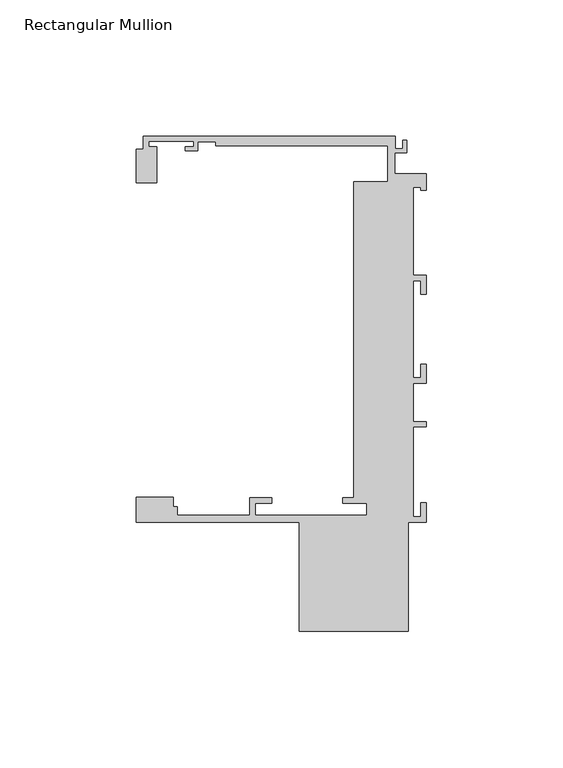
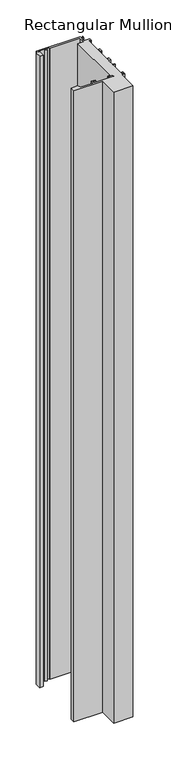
"""IFC4 building model written with IfcOpenShell, lengths in millimetres: member geometry, Rectangular Mullion : Danpal_K12_Middle-Mullion_B2."""

import ifcopenshell
import ifcopenshell.guid

model = None  # the IFC model being written
_history = None  # IfcOwnerHistory: only IFC2X3 demands one
_inside = {}  # id of a spatial element -> (the spatial element, [elements in it])
_under = {}  # id of a project, library or spatial element -> (it, [spatial elements below it])
_declared = {}  # id of a project -> (the project, [libraries it declares])
_typed = {}  # id of a type object -> (the type object, [elements of that type])
_made_of = {}  # id of a material, layer set ... -> (it, [elements and type objects made of it])


def new_model(schema):
    """Start an empty IFC model of exactly this schema.

    Asked for "IFC4X3", IfcOpenShell would pick the latest addendum, in which some entities
    have other attributes; the version numbers below select the first issue.
    IFC2X3 requires an IfcOwnerHistory on every rooted entity: one is made here for all.
    """
    global model, _history
    if schema == "IFC4X3":
        model = ifcopenshell.file(schema_version=(4, 3, 0, 0))
    else:
        model = ifcopenshell.file(schema=schema)
    _inside.clear()
    _under.clear()
    _declared.clear()
    _typed.clear()
    _made_of.clear()
    _history = None
    if model.schema == "IFC2X3":
        org = make("IfcOrganization", Name="unknown")
        user = make(
            "IfcPersonAndOrganization",
            ThePerson=make("IfcPerson", FamilyName="unknown"),
            TheOrganization=org,
        )
        app = make(
            "IfcApplication",
            ApplicationDeveloper=org,
            Version="unknown",
            ApplicationFullName="unknown",
            ApplicationIdentifier="unknown",
        )
        _history = make(
            "IfcOwnerHistory",
            OwningUser=user,
            OwningApplication=app,
            ChangeAction="ADDED",
            CreationDate=0,
        )
    return model


def make(cls, **values):
    """One entity of the class cls with the attributes given. An attribute that is None is left unset."""
    return model.create_entity(
        cls, **{name: value for name, value in values.items() if value is not None}
    )


def rooted(cls, **values):
    """An entity with a GlobalId (a new one), such as an element, a storey or a relation."""
    return make(cls, GlobalId=ifcopenshell.guid.new(), OwnerHistory=_history, **values)


def si_unit(unit_type, name, prefix=None):
    """IfcSIUnit, for example si_unit("LENGTHUNIT", "METRE", prefix="MILLI")."""
    return make("IfcSIUnit", UnitType=unit_type, Prefix=prefix, Name=name)


def assignment(units):
    """IfcUnitAssignment: the units of a project."""
    return None if units is None else make("IfcUnitAssignment", Units=units)


def point(xyz):
    """IfcCartesianPoint."""
    return None if xyz is None else make("IfcCartesianPoint", Coordinates=xyz)


def direction(xyz):
    """IfcDirection."""
    return None if xyz is None else make("IfcDirection", DirectionRatios=xyz)


def frame(location, z_axis=None, x_axis=None):
    """IfcAxis2Placement3D, a coordinate frame: its origin and axes. An axis left out is left unset."""
    return make(
        "IfcAxis2Placement3D",
        Location=point(location),
        Axis=direction(z_axis),
        RefDirection=direction(x_axis),
    )


def origin():
    """The frame at (0, 0, 0) with its axes left unset."""
    return frame((0.0, 0.0, 0.0))


def place(relative_to, where):
    """IfcLocalPlacement: puts the frame where relative to a parent placement (None: the world)."""
    return make(
        "IfcLocalPlacement", PlacementRelTo=relative_to, RelativePlacement=where
    )


def context(
    kind, dimensions, precision=None, world=None, true_north=None, identifier=None
):
    """IfcGeometricRepresentationContext, for example the 3D "Model" context."""
    return make(
        "IfcGeometricRepresentationContext",
        ContextIdentifier=identifier,
        ContextType=kind,
        CoordinateSpaceDimension=dimensions,
        Precision=precision,
        WorldCoordinateSystem=world,
        TrueNorth=true_north,
    )


def project(units=None, contexts=None):
    """IfcProject with its units and contexts."""
    return rooted(
        "IfcProject",
        Name="project",
        RepresentationContexts=contexts,
        UnitsInContext=assignment(units),
    )


def spatial(cls, under=None, at=None, **own):
    """A site, building, storey or space (cls), placed at a placement, below another one or the project."""
    s = rooted(cls, ObjectPlacement=at, **own)
    if under is not None:
        _under.setdefault(under.id(), (under, []))[1].append(s)
    return s


def polyline(points):
    """IfcPolyline through the points."""
    return make("IfcPolyline", Points=[point(p) for p in points])


def outline(outer, holes=None, kind="AREA"):
    """IfcArbitraryClosedProfileDef: a profile drawn as a closed curve; with holes, ...WithVoids."""
    if holes is None:
        return make("IfcArbitraryClosedProfileDef", ProfileType=kind, OuterCurve=outer)
    return make(
        "IfcArbitraryProfileDefWithVoids",
        ProfileType=kind,
        OuterCurve=outer,
        InnerCurves=holes,
    )


def extrude(swept, where, along, depth):
    """IfcExtrudedAreaSolid: the profile swept, set in the frame where, extruded along a direction by depth."""
    return make(
        "IfcExtrudedAreaSolid",
        SweptArea=swept,
        Position=where,
        ExtrudedDirection=direction(along),
        Depth=depth,
    )


def shape(context_of_items, identifier, shape_type, items):
    """IfcShapeRepresentation: the items that make up one representation, for example the "Body"."""
    return make(
        "IfcShapeRepresentation",
        ContextOfItems=context_of_items,
        RepresentationIdentifier=identifier,
        RepresentationType=shape_type,
        Items=items,
    )


def source(mapping_origin, context_of_items, identifier, shape_type, items):
    """IfcRepresentationMap: a shape defined once, which mapped items show again and again."""
    return make(
        "IfcRepresentationMap",
        MappingOrigin=mapping_origin,
        MappedRepresentation=shape(context_of_items, identifier, shape_type, items),
    )


def transform(
    local_origin,
    x_axis=None,
    y_axis=None,
    z_axis=None,
    scale=None,
    scale2=None,
    scale3=None,
    uniform=True,
):
    """IfcCartesianTransformationOperator3D, or its non-uniform kind. x_axis, y_axis, z_axis: its Axis1, 2, 3."""
    if uniform:
        return make(
            "IfcCartesianTransformationOperator3D",
            Axis1=direction(x_axis),
            Axis2=direction(y_axis),
            LocalOrigin=point(local_origin),
            Scale=scale,
            Axis3=direction(z_axis),
        )
    return make(
        "IfcCartesianTransformationOperator3DnonUniform",
        Axis1=direction(x_axis),
        Axis2=direction(y_axis),
        LocalOrigin=point(local_origin),
        Scale=scale,
        Axis3=direction(z_axis),
        Scale2=scale2,
        Scale3=scale3,
    )


def mapped(mapping_source, mapping_target):
    """IfcMappedItem: shows the shape of a source again, moved by a transform."""
    return make(
        "IfcMappedItem", MappingSource=mapping_source, MappingTarget=mapping_target
    )


def made_of(thing, what):
    """Note that an element or type object is made of a material, layer set ...; save() writes the relation."""
    if what is not None:
        _made_of.setdefault(what.id(), (what, []))[1].append(thing)
    return thing


def element(
    cls,
    number,
    at=None,
    inside=None,
    cuts=None,
    type_object=None,
    material=None,
    context=None,
    identifier="Body",
    shape_type=None,
    held_by="IfcProductDefinitionShape",
    body=None,
    shapes=None,
    **own,
):
    """One element of the class cls, such as IfcWall. Its Tag is "e" and its number.

    at: its placement. inside: the storey or other place that contains it. cuts: it is an
    opening in that element (IfcRelVoidsElement). A single representation is given by context,
    identifier, shape_type and body (its items); several are given by shapes. held_by: the class
    of the entity that holds the representations. save() writes the other relations.
    """
    e = rooted(cls, Tag="e%d" % number, ObjectPlacement=at, **own)
    if body is not None:
        shapes = [shape(context, identifier, shape_type, body)]
    if shapes is not None:
        e.Representation = make(held_by, Representations=shapes)
    if inside is not None:
        _inside.setdefault(inside.id(), (inside, []))[1].append(e)
    if cuts is not None:
        rooted(
            "IfcRelVoidsElement", RelatingBuildingElement=cuts, RelatedOpeningElement=e
        )
    if type_object is not None:
        _typed.setdefault(type_object.id(), (type_object, []))[1].append(e)
    return made_of(e, material)


def aggregate(whole, parts):
    """IfcRelAggregates: a whole, such as a stair, and the parts it consists of."""
    return rooted("IfcRelAggregates", RelatingObject=whole, RelatedObjects=parts)


def save(model, path):
    """Write the relations noted so far, then the file.

    IfcRelAggregates (storeys below a building ...), IfcRelContainedInSpatialStructure (elements
    in a storey), IfcRelDefinesByType, IfcRelAssociatesMaterial and IfcRelDeclares: one each for
    every whole, place, type object, material and project.
    """
    for whole, parts in _under.values():
        aggregate(whole, parts)
    for where, things in _inside.values():
        rooted(
            "IfcRelContainedInSpatialStructure",
            RelatedElements=things,
            RelatingStructure=where,
        )
    for kind, things in _typed.values():
        rooted("IfcRelDefinesByType", RelatedObjects=things, RelatingType=kind)
    for what, things in _made_of.values():
        rooted("IfcRelAssociatesMaterial", RelatedObjects=things, RelatingMaterial=what)
    for by, libraries in _declared.values():
        rooted("IfcRelDeclares", RelatingContext=by, RelatedDefinitions=libraries)
    model.write(path)


def rectangular_mullion_ddbf69e2(model_context):
    return source(origin(), model_context, "Body", "SweptSolid", [
        extrude(outline(polyline([(24.173135, -117.8676658), (24.173135, -1.9446289), (36.6885087, -1.9446289), (36.6885087, 11.3051512), (-26.3590216, 11.3051512), (-26.3590216, 12.8051513), (-33.1059015, 12.8051513), (-33.1059015, 9.5051512), (-37.6059015, 9.5051512), (-37.6059015, 11.0051513), (-34.6059015, 11.0051513), (-34.6059015, 13.0051512), (-51.1059014, 13.0051512), (-51.1059014, 11.0051513), (-48.1059014, 11.0051513), (-48.1059014, -2.316674), (-55.6176464, -2.316674), (-55.6176464, 10.065304), (-53.1059014, 10.065304), (-53.1059014, 14.8051514), (39.3921425, 14.8051514), (39.3921425, 10.3006425), (42.1422367, 10.3006425), (42.1422367, 13.3051514), (43.6422367, 13.3051514), (43.6422367, 8.8006425), (39.1885087, 8.8006425), (39.1885087, 1.0551514), (50.7940962, 1.0551514), (50.7940962, -4.9448486), (48.7940962, -4.9448486), (48.7940962, -3.9448486), (45.9940962, -3.9448486), (45.9940962, -36.2443486), (50.7940962, -36.2443486), (50.7940962, -43.2443486), (48.7940962, -43.2443486), (48.7940962, -38.2443486), (45.9940962, -38.2443486), (45.9940962, -73.8676657), (48.7940962, -73.8676657), (48.7940962, -68.8676657), (50.7940962, -68.8676657), (50.7940962, -75.867683), (45.9940962, -75.867683), (45.9940962, -89.8676485), (50.7940962, -89.8676485), (50.7940962, -91.8676485), (45.9940962, -91.8676485), (45.9940962, -124.7676657), (48.7940962, -124.7676657), (48.7940962, -119.7676657), (50.7940962, -119.7676657), (50.7940962, -126.7676657), (44.1940962, -126.7676657), (44.1940962, -166.7676657), (4.1940962, -166.7676657), (4.1940962, -126.7676657), (-55.6176464, -126.7676657), (-55.6176464, -117.6986749), (-42.0287205, -117.6986749), (-42.0287205, -121.0676175), (-40.4959313, -121.0676175), (-40.4959313, -124.2676658), (-13.9409313, -124.2676658), (-13.9409313, -117.8676658), (-5.9409313, -117.8676658), (-5.9409313, -119.8676658), (-11.9409313, -119.8676658), (-11.9409313, -124.2676658), (28.9590961, -124.2676658), (28.9590961, -119.8676658), (20.1940961, -119.8676658), (20.1940961, -117.8676658), (24.173135, -117.8676658)])), frame((0.0, 0.0, -1398.4118076), z_axis=(0.0, 0.0, 1.0), x_axis=(1.0, 0.0, 0.0)), (0.0, 0.0, 1.0), 1398.4118076),
    ])


if __name__ == "__main__":
    model = new_model("IFC4")
    model_context = context("Model", 3, world=origin())
    ifc_project = project(units=[si_unit("LENGTHUNIT", "METRE", prefix="MILLI")], contexts=[model_context])
    site = spatial("IfcSite", under=ifc_project)
    building = spatial("IfcBuilding", under=site)
    placement = place(None, origin())
    rectangular_mullion_shape = rectangular_mullion_ddbf69e2(model_context)
    element("IfcMember", 1, ObjectType="Rectangular Mullion : Danpal_K12_Middle-Mullion_B2", at=placement, inside=building, context=model_context, shape_type="MappedRepresentation", body=[
        mapped(rectangular_mullion_shape, transform((0.0, 0.0, 0.0), x_axis=(1.0, 0.0, 0.0), y_axis=(0.0, 1.0, 0.0), z_axis=(0.0, 0.0, 1.0))),
    ])
    save(model, "model.ifc")
